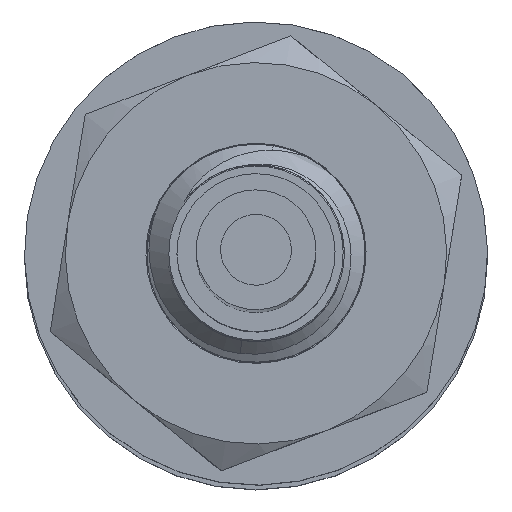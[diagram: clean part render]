
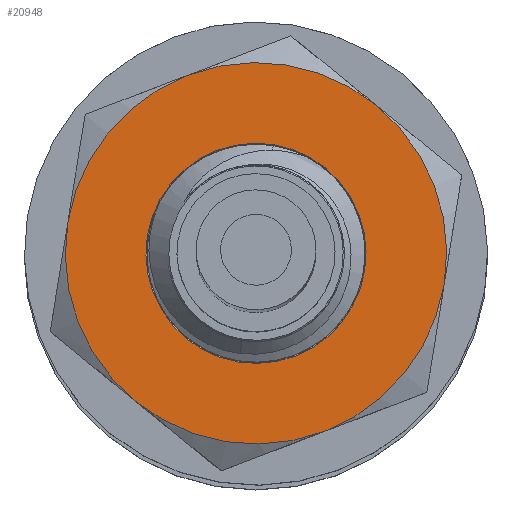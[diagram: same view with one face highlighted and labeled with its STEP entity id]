
A CAD part, top view. The second image highlights one B-rep face of the part: STEP entity #20948.
In plain terms, the highlighted planar face has unit normal (0, 0, 1).
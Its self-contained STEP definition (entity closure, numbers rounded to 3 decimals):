
#29 = EDGE_CURVE ( 'NONE', #3561, #18570, #14987, .T. ) ;
#155 = AXIS2_PLACEMENT_3D ( 'NONE', #12795, #14551, #15014 ) ;
#300 = CARTESIAN_POINT ( 'NONE',  ( -69.856, 2.847, 55.445 ) ) ;
#444 = AXIS2_PLACEMENT_3D ( 'NONE', #1357, #19690, #8843 ) ;
#738 = VERTEX_POINT ( 'NONE', #3318 ) ;
#1305 = ORIENTED_EDGE ( 'NONE', *, *, #2597, .T. ) ;
#1357 = CARTESIAN_POINT ( 'NONE',  ( -67.647, 5.562, 55.445 ) ) ;
#1721 = EDGE_CURVE ( 'NONE', #18600, #3561, #9797, .T. ) ;
#1782 = AXIS2_PLACEMENT_3D ( 'NONE', #12579, #19750, #8814 ) ;
#2295 = CARTESIAN_POINT ( 'NONE',  ( -69.641, 5.882, 55.445 ) ) ;
#2597 = EDGE_CURVE ( 'NONE', #18570, #14095, #23524, .T. ) ;
#2733 = DIRECTION ( 'NONE',  ( 0.987, -0.159, 0. ) ) ;
#3318 = CARTESIAN_POINT ( 'NONE',  ( -65.652, 5.241, 55.445 ) ) ;
#3525 = AXIS2_PLACEMENT_3D ( 'NONE', #3707, #3782, #11045 ) ;
#3561 = VERTEX_POINT ( 'NONE', #19335 ) ;
#3596 = CARTESIAN_POINT ( 'NONE',  ( -67.647, 5.562, 55.445 ) ) ;
#3707 = CARTESIAN_POINT ( 'NONE',  ( -67.647, 5.562, 55.445 ) ) ;
#3782 = DIRECTION ( 'NONE',  ( 0., 0., -1. ) ) ;
#3914 = EDGE_CURVE ( 'NONE', #14415, #738, #9251, .T. ) ;
#4415 = DIRECTION ( 'NONE',  ( 0., 0., 1. ) ) ;
#4592 = EDGE_CURVE ( 'NONE', #11002, #18600, #4939, .T. ) ;
#4939 = CIRCLE ( 'NONE', #1782, 3.5 ) ;
#5488 = DIRECTION ( 'NONE',  ( 0., 0., -1. ) ) ;
#5500 = AXIS2_PLACEMENT_3D ( 'NONE', #13668, #4415, #2733 ) ;
#5956 = EDGE_CURVE ( 'NONE', #14095, #17118, #14311, .T. ) ;
#6026 = FACE_BOUND ( 'NONE', #9275, .T. ) ;
#6550 = CARTESIAN_POINT ( 'NONE',  ( -68.894, 8.832, 55.445 ) ) ;
#6692 = ORIENTED_EDGE ( 'NONE', *, *, #3914, .T. ) ;
#8667 = DIRECTION ( 'NONE',  ( 0.987, -0.159, 0. ) ) ;
#8814 = DIRECTION ( 'NONE',  ( 0.987, -0.159, 0. ) ) ;
#8843 = DIRECTION ( 'NONE',  ( 0.987, -0.159, 0. ) ) ;
#8929 = DIRECTION ( 'NONE',  ( 0.987, -0.159, 0. ) ) ;
#9251 = CIRCLE ( 'NONE', #10935, 2.02 ) ;
#9275 = EDGE_LOOP ( 'NONE', ( #15181, #6692 ) ) ;
#9797 = CIRCLE ( 'NONE', #5500, 3.5 ) ;
#10210 = CIRCLE ( 'NONE', #155, 3.5 ) ;
#10579 = CARTESIAN_POINT ( 'NONE',  ( -67.647, 5.562, 55.445 ) ) ;
#10935 = AXIS2_PLACEMENT_3D ( 'NONE', #3596, #5488, #23470 ) ;
#11002 = VERTEX_POINT ( 'NONE', #19582 ) ;
#11045 = DIRECTION ( 'NONE',  ( 0.987, -0.159, 0. ) ) ;
#11274 = CARTESIAN_POINT ( 'NONE',  ( -66.4, 2.291, 55.445 ) ) ;
#11483 = AXIS2_PLACEMENT_3D ( 'NONE', #10579, #14237, #17781 ) ;
#12579 = CARTESIAN_POINT ( 'NONE',  ( -67.647, 5.562, 55.445 ) ) ;
#12795 = CARTESIAN_POINT ( 'NONE',  ( -67.647, 5.562, 55.445 ) ) ;
#13057 = CARTESIAN_POINT ( 'NONE',  ( -64.191, 5.006, 55.445 ) ) ;
#13668 = CARTESIAN_POINT ( 'NONE',  ( -67.647, 5.562, 55.445 ) ) ;
#13950 = PLANE ( 'NONE',  #14305 ) ;
#14095 = VERTEX_POINT ( 'NONE', #11274 ) ;
#14237 = DIRECTION ( 'NONE',  ( 0., 0., 1. ) ) ;
#14305 = AXIS2_PLACEMENT_3D ( 'NONE', #21304, #23131, #8667 ) ;
#14311 = CIRCLE ( 'NONE', #444, 3.5 ) ;
#14415 = VERTEX_POINT ( 'NONE', #2295 ) ;
#14551 = DIRECTION ( 'NONE',  ( 0., 0., 1. ) ) ;
#14987 = CIRCLE ( 'NONE', #11483, 3.5 ) ;
#15014 = DIRECTION ( 'NONE',  ( 0.987, -0.159, 0. ) ) ;
#15181 = ORIENTED_EDGE ( 'NONE', *, *, #16140, .T. ) ;
#15265 = ORIENTED_EDGE ( 'NONE', *, *, #29, .T. ) ;
#15998 = DIRECTION ( 'NONE',  ( 0., 0., 1. ) ) ;
#16140 = EDGE_CURVE ( 'NONE', #738, #14415, #23182, .T. ) ;
#17118 = VERTEX_POINT ( 'NONE', #13057 ) ;
#17638 = ORIENTED_EDGE ( 'NONE', *, *, #23106, .T. ) ;
#17781 = DIRECTION ( 'NONE',  ( 0.987, -0.159, 0. ) ) ;
#18040 = AXIS2_PLACEMENT_3D ( 'NONE', #23301, #15998, #8929 ) ;
#18238 = FACE_OUTER_BOUND ( 'NONE', #22130, .T. ) ;
#18570 = VERTEX_POINT ( 'NONE', #300 ) ;
#18600 = VERTEX_POINT ( 'NONE', #6550 ) ;
#19155 = ORIENTED_EDGE ( 'NONE', *, *, #4592, .T. ) ;
#19335 = CARTESIAN_POINT ( 'NONE',  ( -71.102, 6.117, 55.445 ) ) ;
#19582 = CARTESIAN_POINT ( 'NONE',  ( -65.438, 8.277, 55.445 ) ) ;
#19690 = DIRECTION ( 'NONE',  ( 0., 0., 1. ) ) ;
#19750 = DIRECTION ( 'NONE',  ( 0., 0., 1. ) ) ;
#20369 = ORIENTED_EDGE ( 'NONE', *, *, #5956, .T. ) ;
#20948 = ADVANCED_FACE ( 'NONE', ( #6026, #18238 ), #13950, .T. ) ;
#21304 = CARTESIAN_POINT ( 'NONE',  ( -67.647, 5.562, 55.445 ) ) ;
#22130 = EDGE_LOOP ( 'NONE', ( #20369, #17638, #19155, #22175, #15265, #1305 ) ) ;
#22175 = ORIENTED_EDGE ( 'NONE', *, *, #1721, .T. ) ;
#23106 = EDGE_CURVE ( 'NONE', #17118, #11002, #10210, .T. ) ;
#23131 = DIRECTION ( 'NONE',  ( 0., 0., 1. ) ) ;
#23182 = CIRCLE ( 'NONE', #3525, 2.02 ) ;
#23301 = CARTESIAN_POINT ( 'NONE',  ( -67.647, 5.562, 55.445 ) ) ;
#23470 = DIRECTION ( 'NONE',  ( 0.987, -0.159, 0. ) ) ;
#23524 = CIRCLE ( 'NONE', #18040, 3.5 ) ;
